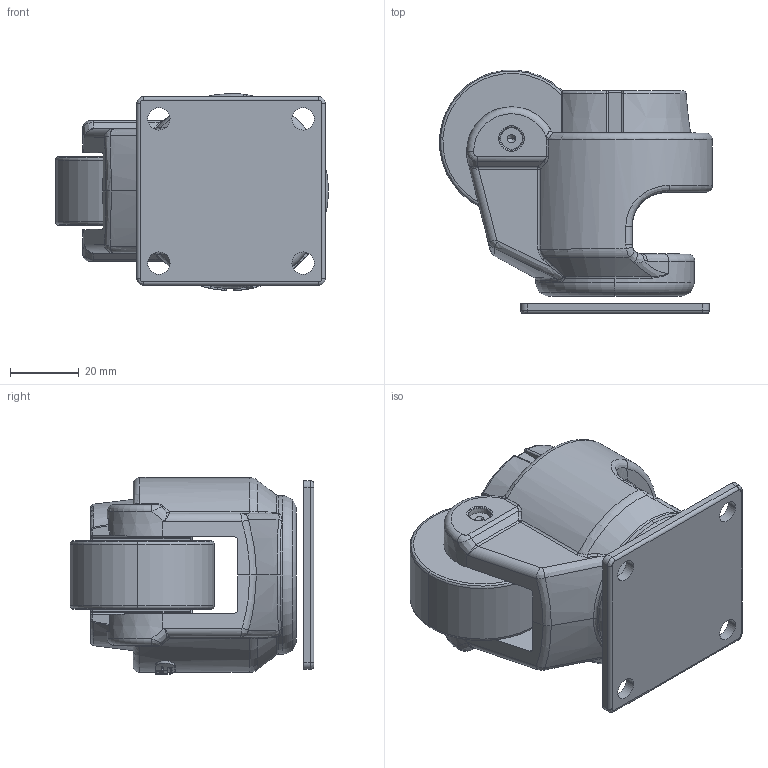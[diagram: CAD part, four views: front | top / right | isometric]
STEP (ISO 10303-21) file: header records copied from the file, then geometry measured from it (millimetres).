
FILE_DESCRIPTION((''),'2;1');
FILE_NAME('GD-40F__ASM','2022-09-16T',('lenovo'),(''),'PRO/ENGINEER BY PARAMETRIC TECHNOLOGY CORPORATION, 2010280','PRO/ENGINEER BY PARAMETRIC TECHNOLOGY CORPORATION, 2010280','');
FILE_SCHEMA(('CONFIG_CONTROL_DESIGN'));
Length unit declared in the file: millimetre
Products named in the file (6): MANIFOLD_SOLID_BREP_92; MANIFOLD_SOLID_BREP_93; ADMI11D05DBECXH3_ASM; GD-40_; MANIFOLD_SOLID_BREP_91; GD-40F__ASM
Assembly tree (5 placements, depth 3):
  GD-40F__ASM
    ADMI11D05DBECXH3_ASM
      MANIFOLD_SOLID_BREP_92
      MANIFOLD_SOLID_BREP_93
    GD-40_
    MANIFOLD_SOLID_BREP_91
Bounding box: 79.52 x 70.97 x 57.39 mm (x, y, z)
Volume: 114400.3 mm3; surface area: 37289.7 mm2
Topology: 4 solids, 4 shells, 450 faces, 1145 edges, 695 vertices
Faces by surface type: plane 136, cylinder 103, bspline 91, torus 68, cone 27, sphere 16, extrusion 9
Entity records: 17592 total; most frequent: CARTESIAN_POINT 7473, ORIENTED_EDGE 2244, DIRECTION 1895, EDGE_CURVE 1122, AXIS2_PLACEMENT_3D 789, VERTEX_POINT 695, EDGE_LOOP 477, FACE_OUTER_BOUND 450
